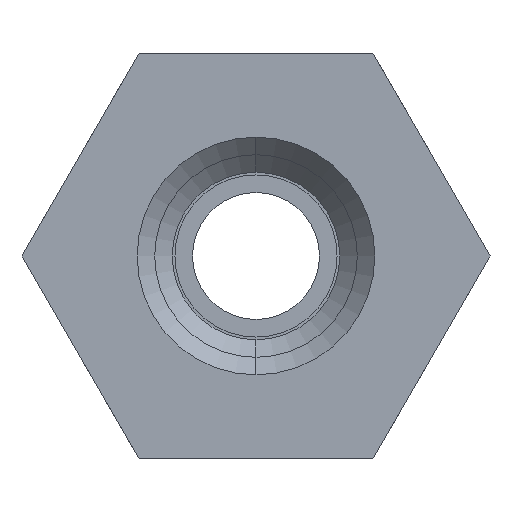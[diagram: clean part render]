
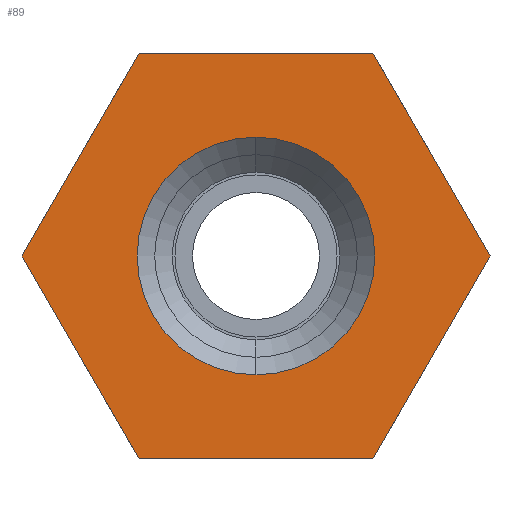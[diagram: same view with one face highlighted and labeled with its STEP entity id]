
A CAD part, front view. The second image highlights one B-rep face of the part: STEP entity #89.
In plain terms, the highlighted planar face has unit normal (0, -1, 0).
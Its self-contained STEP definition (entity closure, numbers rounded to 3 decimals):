
#89=ADVANCED_FACE('',(#165,#127),#379,.T.);
#127=FACE_OUTER_BOUND('',#173,.F.);
#165=FACE_BOUND('',#172,.F.);
#172=EDGE_LOOP('',(#218,#219));
#173=EDGE_LOOP('',(#220,#221,#222,#223,#224,#225));
#218=ORIENTED_EDGE('',*,*,#488,.T.);
#219=ORIENTED_EDGE('',*,*,#489,.T.);
#220=ORIENTED_EDGE('',*,*,#490,.F.);
#221=ORIENTED_EDGE('',*,*,#491,.F.);
#222=ORIENTED_EDGE('',*,*,#492,.F.);
#223=ORIENTED_EDGE('',*,*,#493,.F.);
#224=ORIENTED_EDGE('',*,*,#494,.F.);
#225=ORIENTED_EDGE('',*,*,#495,.F.);
#379=PLANE('',#665);
#390=LINE('',#1010,#428);
#391=LINE('',#1011,#429);
#392=LINE('',#1012,#430);
#393=LINE('',#1013,#431);
#394=LINE('',#1014,#432);
#395=LINE('',#1015,#433);
#428=VECTOR('',#739,2.887);
#429=VECTOR('',#740,2.887);
#430=VECTOR('',#741,2.887);
#431=VECTOR('',#742,2.887);
#432=VECTOR('',#743,2.887);
#433=VECTOR('',#744,2.887);
#488=EDGE_CURVE('',#611,#610,#562,.T.);
#489=EDGE_CURVE('',#610,#611,#563,.T.);
#490=EDGE_CURVE('',#609,#608,#390,.T.);
#491=EDGE_CURVE('',#607,#609,#391,.T.);
#492=EDGE_CURVE('',#606,#607,#392,.T.);
#493=EDGE_CURVE('',#605,#606,#393,.T.);
#494=EDGE_CURVE('',#604,#605,#394,.T.);
#495=EDGE_CURVE('',#608,#604,#395,.T.);
#562=CIRCLE('',#650,1.466);
#563=CIRCLE('',#651,1.466);
#604=VERTEX_POINT('',#928);
#605=VERTEX_POINT('',#929);
#606=VERTEX_POINT('',#930);
#607=VERTEX_POINT('',#931);
#608=VERTEX_POINT('',#932);
#609=VERTEX_POINT('',#933);
#610=VERTEX_POINT('',#934);
#611=VERTEX_POINT('',#935);
#650=AXIS2_PLACEMENT_3D('',#1008,#735,#736);
#651=AXIS2_PLACEMENT_3D('',#1009,#737,#738);
#665=AXIS2_PLACEMENT_3D('',#1049,#791,#792);
#735=DIRECTION('',(0.,-1.,0.));
#736=DIRECTION('',(0.,0.,1.));
#737=DIRECTION('',(0.,-1.,0.));
#738=DIRECTION('',(0.,0.,-1.));
#739=DIRECTION('',(1.,0.,0.));
#740=DIRECTION('',(0.5,0.,-0.866));
#741=DIRECTION('',(-0.5,0.,-0.866));
#742=DIRECTION('',(-1.,0.,0.));
#743=DIRECTION('',(-0.5,0.,0.866));
#744=DIRECTION('',(0.5,0.,0.866));
#791=DIRECTION('',(0.,-1.,0.));
#792=DIRECTION('',(-1.,0.,0.));
#928=CARTESIAN_POINT('',(23.511,-18.196,21.205));
#929=CARTESIAN_POINT('',(22.068,-18.196,23.705));
#930=CARTESIAN_POINT('',(19.181,-18.196,23.705));
#931=CARTESIAN_POINT('',(17.738,-18.196,21.205));
#932=CARTESIAN_POINT('',(22.068,-18.196,18.705));
#933=CARTESIAN_POINT('',(19.181,-18.196,18.705));
#934=CARTESIAN_POINT('',(20.624,-18.196,19.739));
#935=CARTESIAN_POINT('',(20.624,-18.196,22.672));
#1008=CARTESIAN_POINT('',(20.624,-18.196,21.205));
#1009=CARTESIAN_POINT('',(20.624,-18.196,21.205));
#1010=CARTESIAN_POINT('',(19.181,-18.196,18.705));
#1011=CARTESIAN_POINT('',(17.738,-18.196,21.205));
#1012=CARTESIAN_POINT('',(19.181,-18.196,23.705));
#1013=CARTESIAN_POINT('',(22.068,-18.196,23.705));
#1014=CARTESIAN_POINT('',(23.511,-18.196,21.205));
#1015=CARTESIAN_POINT('',(22.068,-18.196,18.705));
#1049=CARTESIAN_POINT('',(23.569,-18.196,23.763));
